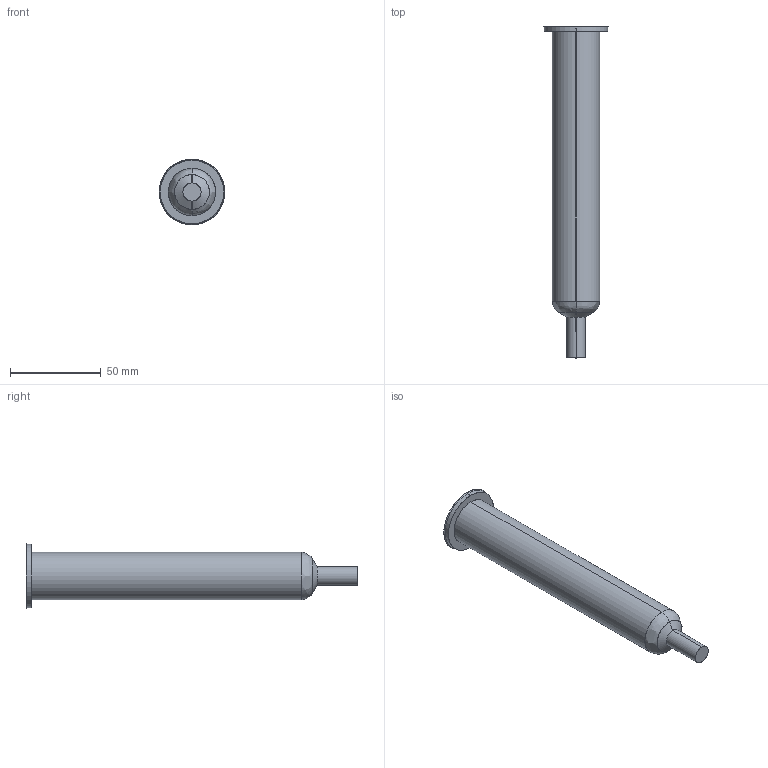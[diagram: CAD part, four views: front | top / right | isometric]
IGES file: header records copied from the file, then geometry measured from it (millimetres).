
Start section: SolidWorks IGES file using analytic representation for surfaces
Global section: file name: C:\Users\luca.EMPAD\Desktop\TEM\Sede UGBE3504-M-A C-159 L-189 P-20.IGS; native system: SolidWorks 2012; preprocessor: SolidWorks 2012; author: luca; date: 120330.142834; units: millimetre
Bounding box: 36 x 182.4 x 36 mm (x, y, z)
Surface area: 15476.3 mm2 (no closed solid volume)
Topology: 0 solids, 0 shells, 15 faces, 240 edges, 240 vertices
Faces by surface type: revolution 10, bspline 5
